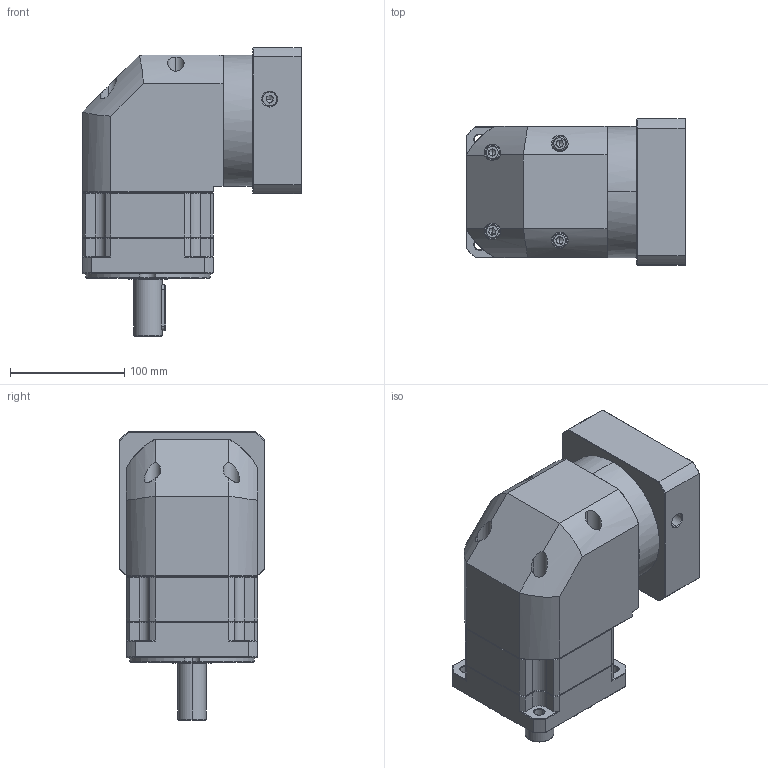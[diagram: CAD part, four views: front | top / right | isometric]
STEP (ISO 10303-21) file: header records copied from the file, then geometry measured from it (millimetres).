
FILE_DESCRIPTION (( 'STEP AP214' ), '1' );
FILE_NAME ('ZBR115A-D25-L1-P2-24-110-145-M8.step', '2023-08-26T12:31:23', ( '' ), ( '' ), 'SwSTEP 2.0', 'SolidWorks 2016', '' );
FILE_SCHEMA (( 'AUTOMOTIVE_DESIGN' ));
Length unit declared in the file: millimetre
Products named in the file (1): ZBR115A-D25-L1-P2-24-110-145-M8
Bounding box: 192.4 x 128 x 253 mm (x, y, z)
Volume: 3038904.2 mm3; surface area: 253693.5 mm2
Topology: 6 solids, 6 shells, 2379 faces, 6239 edges, 3964 vertices
Faces by surface type: plane 1139, cylinder 439, bspline 424, cone 369, torus 8
Entity records: 128018 total; most frequent: CARTESIAN_POINT 46860, ORIENTED_EDGE 12418, DIRECTION 9793, EDGE_CURVE 6209, VECTOR 3991, LINE 3991, VERTEX_POINT 3964, AXIS2_PLACEMENT_3D 2901
